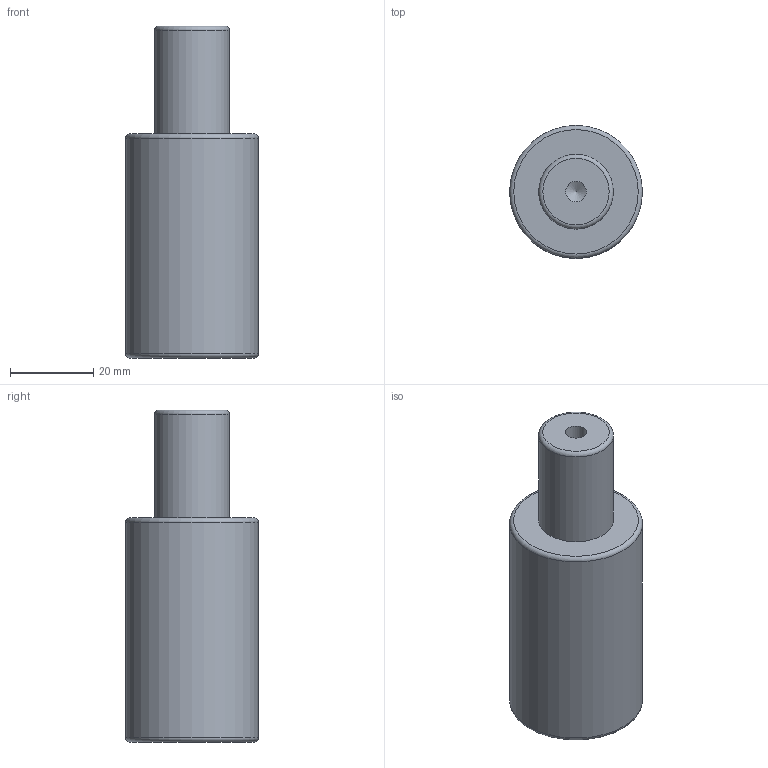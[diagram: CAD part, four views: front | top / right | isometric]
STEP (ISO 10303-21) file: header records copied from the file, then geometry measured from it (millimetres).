
FILE_DESCRIPTION(/* description */ (''),/* implementation_level */ '2;1');
FILE_NAME(/* name */ 'NV5-SMLX.32x25.stp',/* time_stamp */ '2018-08-31T16:08:37+02:00',/* author */ (''),/* organization */ (''),/* preprocessor_version */ 'ST-DEVELOPER v16',/* originating_system */ 'SIEMENS PLM Software NX 10.0',/* authorisation */ '');
FILE_SCHEMA (('AUTOMOTIVE_DESIGN { 1 0 10303 214 3 1 1 1 }'));
Length unit declared in the file: millimetre
Products named in the file (1): NV5-SMLX.32x25
Bounding box: 32 x 32 x 80 mm (x, y, z)
Volume: 49539.6 mm3; surface area: 8747.6 mm2
Topology: 1 solids, 1 shells, 12 faces, 24 edges, 15 vertices
Faces by surface type: cylinder 4, torus 3, plane 3, cone 2
Full cylindrical faces by diameter (mm): 5 x2, 18 x1, 32 x1
Entity records: 266 total; most frequent: DIRECTION 48, CARTESIAN_POINT 37, FACE_BOUND 24, AXIS2_PLACEMENT_3D 24, EDGE_LOOP 22, ORIENTED_EDGE 22, VERTEX_POINT 13, ADVANCED_FACE 12
